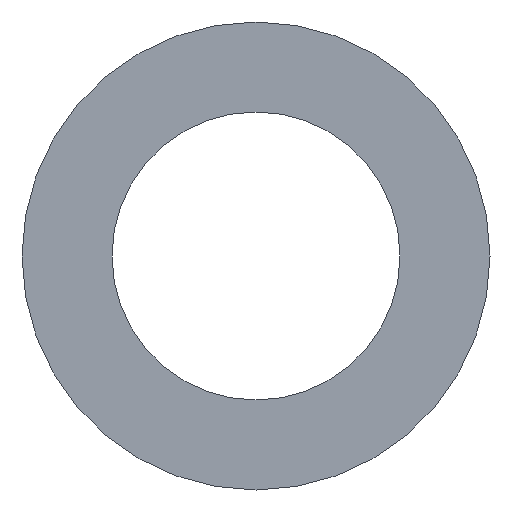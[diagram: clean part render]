
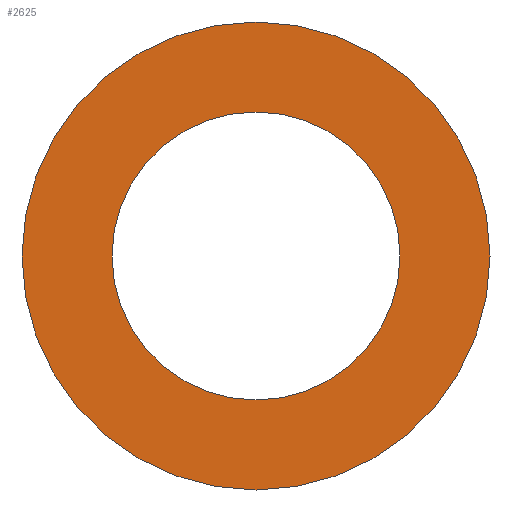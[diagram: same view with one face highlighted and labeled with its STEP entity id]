
A CAD part, front view. The second image highlights one B-rep face of the part: STEP entity #2625.
In plain terms, the highlighted planar face has unit normal (0, -1, 0).
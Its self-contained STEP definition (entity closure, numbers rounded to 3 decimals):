
#191 = DIRECTION ( 'NONE',  ( 0., -1., 0. ) ) ;
#291 = CARTESIAN_POINT ( 'NONE',  ( 0., -14., -20. ) ) ;
#380 = ORIENTED_EDGE ( 'NONE', *, *, #3517, .F. ) ;
#395 = CARTESIAN_POINT ( 'NONE',  ( 0., -14., -32.5 ) ) ;
#526 = DIRECTION ( 'NONE',  ( 0., 0., -1. ) ) ;
#611 = EDGE_LOOP ( 'NONE', ( #3314, #1701 ) ) ;
#672 = CARTESIAN_POINT ( 'NONE',  ( 0., -14., 0. ) ) ;
#786 = CARTESIAN_POINT ( 'NONE',  ( 0., -14., 0. ) ) ;
#965 = AXIS2_PLACEMENT_3D ( 'NONE', #2820, #2832, #3395 ) ;
#977 = AXIS2_PLACEMENT_3D ( 'NONE', #672, #2365, #2664 ) ;
#1004 = VERTEX_POINT ( 'NONE', #291 ) ;
#1037 = FACE_OUTER_BOUND ( 'NONE', #611, .T. ) ;
#1217 = FACE_BOUND ( 'NONE', #2521, .T. ) ;
#1234 = DIRECTION ( 'NONE',  ( 0., -1., 0. ) ) ;
#1297 = CIRCLE ( 'NONE', #977, 20. ) ;
#1518 = EDGE_CURVE ( 'NONE', #2389, #3031, #2588, .T. ) ;
#1641 = AXIS2_PLACEMENT_3D ( 'NONE', #1647, #2222, #2805 ) ;
#1647 = CARTESIAN_POINT ( 'NONE',  ( 0., -14., 20. ) ) ;
#1701 = ORIENTED_EDGE ( 'NONE', *, *, #1904, .T. ) ;
#1752 = CIRCLE ( 'NONE', #3384, 32.5 ) ;
#1787 = CARTESIAN_POINT ( 'NONE',  ( 0., -14., 20. ) ) ;
#1794 = CARTESIAN_POINT ( 'NONE',  ( 0., -14., 0. ) ) ;
#1828 = DIRECTION ( 'NONE',  ( 0., 0., -1. ) ) ;
#1904 = EDGE_CURVE ( 'NONE', #3031, #2389, #1752, .T. ) ;
#2222 = DIRECTION ( 'NONE',  ( 0., 1., 0. ) ) ;
#2310 = EDGE_CURVE ( 'NONE', #1004, #2844, #3407, .T. ) ;
#2365 = DIRECTION ( 'NONE',  ( 0., -1., 0. ) ) ;
#2389 = VERTEX_POINT ( 'NONE', #395 ) ;
#2521 = EDGE_LOOP ( 'NONE', ( #2722, #380 ) ) ;
#2588 = CIRCLE ( 'NONE', #965, 32.5 ) ;
#2625 = ADVANCED_FACE ( 'NONE', ( #1217, #1037 ), #3071, .F. ) ;
#2664 = DIRECTION ( 'NONE',  ( 0., 0., -1. ) ) ;
#2690 = AXIS2_PLACEMENT_3D ( 'NONE', #1794, #1234, #1828 ) ;
#2722 = ORIENTED_EDGE ( 'NONE', *, *, #2310, .F. ) ;
#2805 = DIRECTION ( 'NONE',  ( 0., 0., 1. ) ) ;
#2820 = CARTESIAN_POINT ( 'NONE',  ( 0., -14., 0. ) ) ;
#2832 = DIRECTION ( 'NONE',  ( 0., -1., 0. ) ) ;
#2844 = VERTEX_POINT ( 'NONE', #1787 ) ;
#3031 = VERTEX_POINT ( 'NONE', #3525 ) ;
#3071 = PLANE ( 'NONE',  #1641 ) ;
#3314 = ORIENTED_EDGE ( 'NONE', *, *, #1518, .T. ) ;
#3384 = AXIS2_PLACEMENT_3D ( 'NONE', #786, #191, #526 ) ;
#3395 = DIRECTION ( 'NONE',  ( 0., 0., -1. ) ) ;
#3407 = CIRCLE ( 'NONE', #2690, 20. ) ;
#3517 = EDGE_CURVE ( 'NONE', #2844, #1004, #1297, .T. ) ;
#3525 = CARTESIAN_POINT ( 'NONE',  ( 0., -14., 32.5 ) ) ;
